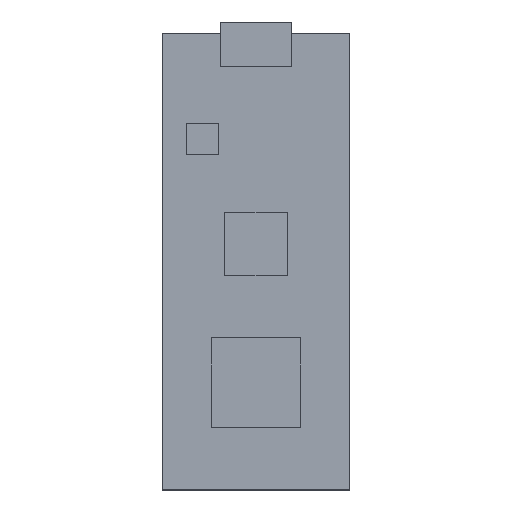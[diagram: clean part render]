
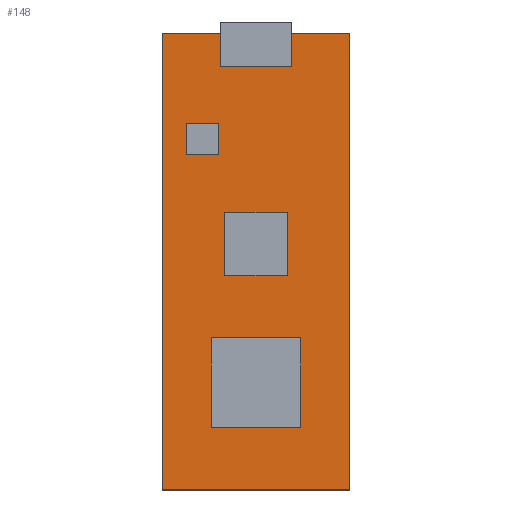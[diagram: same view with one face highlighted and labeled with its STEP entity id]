
A CAD part, top view. The second image highlights one B-rep face of the part: STEP entity #148.
In plain terms, the highlighted planar face has unit normal (0, 0, 1).
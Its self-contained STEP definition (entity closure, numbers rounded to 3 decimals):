
#9=CARTESIAN_POINT('',(-10.5,-25.5,1.));
#10=VERTEX_POINT('',#9);
#11=CARTESIAN_POINT('',(10.5,-25.5,1.));
#12=VERTEX_POINT('',#11);
#13=CARTESIAN_POINT('',(-10.5,25.5,1.));
#14=VERTEX_POINT('',#13);
#15=CARTESIAN_POINT('',(10.5,25.5,1.));
#16=VERTEX_POINT('',#15);
#17=DIRECTION('',(0.,1.,0.));
#18=VECTOR('',#17,51.);
#19=CARTESIAN_POINT('',(-10.5,-25.5,1.));
#20=LINE('',#19,#18);
#21=EDGE_CURVE('',#10,#14,#20,.T.);
#61=DIRECTION('',(0.,1.,0.));
#62=VECTOR('',#61,51.);
#63=CARTESIAN_POINT('',(10.5,-25.5,1.));
#64=LINE('',#63,#62);
#65=EDGE_CURVE('',#12,#16,#64,.T.);
#82=DIRECTION('',(1.,0.,0.));
#83=VECTOR('',#82,21.);
#84=CARTESIAN_POINT('',(-10.5,-25.5,1.));
#85=LINE('',#84,#83);
#86=EDGE_CURVE('',#10,#12,#85,.T.);
#104=DIRECTION('',(1.,0.,0.));
#105=VECTOR('',#104,21.);
#106=CARTESIAN_POINT('',(-10.5,25.5,1.));
#107=LINE('',#106,#105);
#108=EDGE_CURVE('',#14,#16,#107,.T.);
#137=ORIENTED_EDGE('',*,*,#86,.T.);
#138=ORIENTED_EDGE('',*,*,#65,.T.);
#139=ORIENTED_EDGE('',*,*,#108,.F.);
#140=ORIENTED_EDGE('',*,*,#21,.F.);
#141=EDGE_LOOP('',(#137,#138,#139,#140));
#142=FACE_OUTER_BOUND('',#141,.T.);
#143=CARTESIAN_POINT('',(-10.5,-25.5,1.));
#144=DIRECTION('',(0.,0.,1.));
#145=DIRECTION('',(1.,0.,0.));
#146=AXIS2_PLACEMENT_3D('',#143,#144,#145);
#147=PLANE('',#146);
#148=ADVANCED_FACE('',(#142),#147,.T.);
